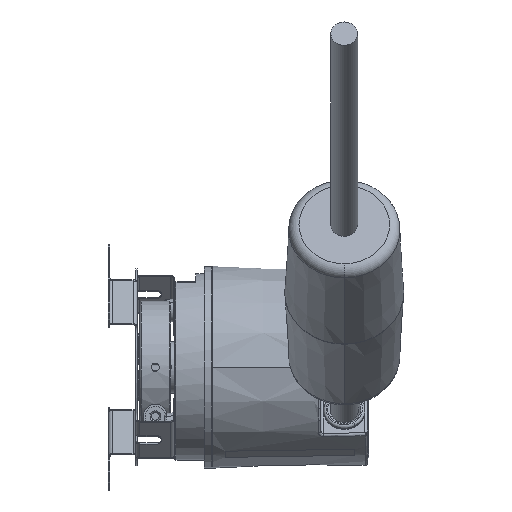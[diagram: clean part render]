
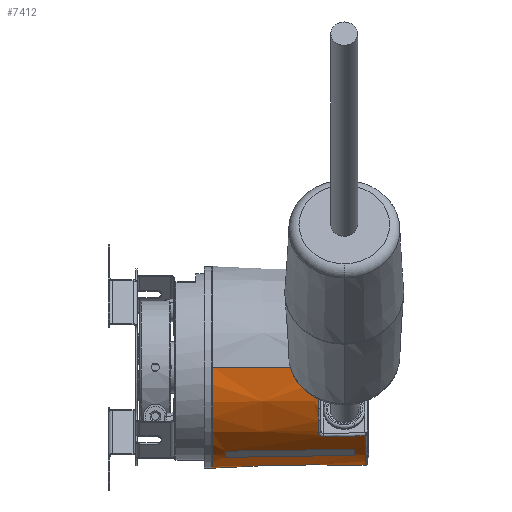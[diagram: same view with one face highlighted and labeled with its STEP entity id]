
A CAD part, front view. The second image highlights one B-rep face of the part: STEP entity #7412.
In plain terms, the highlighted conical face has half-angle 1 degrees and reference radius 18.976 mm.
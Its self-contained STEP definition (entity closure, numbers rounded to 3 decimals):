
#18 = DIRECTION ( 'NONE',  ( 0., -1., 0. ) ) ;
#19 = DIRECTION ( 'NONE',  ( -1., 0., 0. ) ) ;
#20 = CARTESIAN_POINT ( 'NONE',  ( 42.2, 0., 0. ) ) ;
#21 = AXIS2_PLACEMENT_3D ( 'NONE', #20, #19, #18 ) ;
#22 = CONICAL_SURFACE ( 'NONE', #21, 18.976, 0.017 ) ;
#52 = CARTESIAN_POINT ( 'NONE',  ( 14.7, -10.74, -16.224 ) ) ;
#53 = DIRECTION ( 'NONE',  ( 0., 1., 0. ) ) ;
#54 = DIRECTION ( 'NONE',  ( 1., 0., 0. ) ) ;
#55 = CARTESIAN_POINT ( 'NONE',  ( 12.2, 0., 0. ) ) ;
#56 = CARTESIAN_POINT ( 'NONE',  ( 33.709, -13.658, -13.387 ) ) ;
#57 = CARTESIAN_POINT ( 'NONE',  ( 33.572, -13.659, -13.389 ) ) ;
#58 = CARTESIAN_POINT ( 'NONE',  ( 33.437, -13.681, -13.37 ) ) ;
#59 = CARTESIAN_POINT ( 'NONE',  ( 33.19, -13.762, -13.293 ) ) ;
#60 = CARTESIAN_POINT ( 'NONE',  ( 33.079, -13.821, -13.235 ) ) ;
#61 = CARTESIAN_POINT ( 'NONE',  ( 32.898, -13.961, -13.091 ) ) ;
#62 = CARTESIAN_POINT ( 'NONE',  ( 32.827, -14.044, -13.005 ) ) ;
#63 = CARTESIAN_POINT ( 'NONE',  ( 32.733, -14.216, -12.819 ) ) ;
#64 = CARTESIAN_POINT ( 'NONE',  ( 32.709, -14.307, -12.718 ) ) ;
#65 = CARTESIAN_POINT ( 'NONE',  ( 32.709, -14.397, -12.615 ) ) ;
#66 = AXIS2_PLACEMENT_3D ( 'NONE', #55, #54, #53 ) ;
#67 = CIRCLE ( 'NONE', #66, 19.5 ) ;
#68 = B_SPLINE_CURVE_WITH_KNOTS ( 'NONE', 3,
 ( #65, #64, #63, #62, #61, #60, #59, #58, #57, #56 ),
 .UNSPECIFIED., .F., .F.,
 ( 4, 2, 2, 2, 4 ),
 ( 0., 0., 0.001, 0.001, 0.002 ),
 .UNSPECIFIED. ) ;
#70 = DIRECTION ( 'NONE',  ( 0., -1., 0. ) ) ;
#71 = DIRECTION ( 'NONE',  ( 1., 0., 0. ) ) ;
#72 = CARTESIAN_POINT ( 'NONE',  ( 39.7, 0., 0. ) ) ;
#73 = AXIS2_PLACEMENT_3D ( 'NONE', #72, #71, #70 ) ;
#74 = CIRCLE ( 'NONE', #73, 19.02 ) ;
#124 = CARTESIAN_POINT ( 'NONE',  ( 14.7, -8.68, -17.413 ) ) ;
#129 = DIRECTION ( 'NONE',  ( 0., 1., 0. ) ) ;
#130 = DIRECTION ( 'NONE',  ( -1., 0., 0. ) ) ;
#131 = CARTESIAN_POINT ( 'NONE',  ( 32.709, 0., 0. ) ) ;
#132 = AXIS2_PLACEMENT_3D ( 'NONE', #131, #130, #129 ) ;
#133 = CIRCLE ( 'NONE', #132, 19.142 ) ;
#150 = FACE_BOUND ( 'NONE', #7328, .T. ) ;
#151 = FACE_OUTER_BOUND ( 'NONE', #7413, .T. ) ;
#156 = CARTESIAN_POINT ( 'NONE',  ( 39.7, -8.474, -17.028 ) ) ;
#157 = CARTESIAN_POINT ( 'NONE',  ( 31.367, -8.543, -17.156 ) ) ;
#158 = CARTESIAN_POINT ( 'NONE',  ( 23.033, -8.611, -17.284 ) ) ;
#159 = CARTESIAN_POINT ( 'NONE',  ( 14.7, -8.68, -17.413 ) ) ;
#161 = B_SPLINE_CURVE_WITH_KNOTS ( 'NONE', 3,
 ( #159, #158, #157, #156 ),
 .UNSPECIFIED., .F., .F.,
 ( 4, 4 ),
 ( 0., 0.025 ),
 .UNSPECIFIED. ) ;
#170 = CARTESIAN_POINT ( 'NONE',  ( 39.7, -8.474, -17.028 ) ) ;
#218 = CARTESIAN_POINT ( 'NONE',  ( 14.7, -10.74, -16.224 ) ) ;
#219 = CARTESIAN_POINT ( 'NONE',  ( 23.033, -10.663, -16.1 ) ) ;
#220 = CARTESIAN_POINT ( 'NONE',  ( 31.367, -10.586, -15.976 ) ) ;
#221 = CARTESIAN_POINT ( 'NONE',  ( 39.7, -10.51, -15.853 ) ) ;
#222 = CARTESIAN_POINT ( 'NONE',  ( 39.7, -10.51, -15.853 ) ) ;
#223 = B_SPLINE_CURVE_WITH_KNOTS ( 'NONE', 3,
 ( #221, #220, #219, #218 ),
 .UNSPECIFIED., .F., .F.,
 ( 4, 4 ),
 ( 0., 0.025 ),
 .UNSPECIFIED. ) ;
#333 = DIRECTION ( 'NONE',  ( 0., -1., 0. ) ) ;
#334 = DIRECTION ( 'NONE',  ( 1., 0., 0. ) ) ;
#335 = CARTESIAN_POINT ( 'NONE',  ( 14.7, 0., 0. ) ) ;
#336 = AXIS2_PLACEMENT_3D ( 'NONE', #335, #334, #333 ) ;
#337 = CIRCLE ( 'NONE', #336, 19.456 ) ;
#369 = CARTESIAN_POINT ( 'NONE',  ( 32.709, -14.397, -12.615 ) ) ;
#6700 = EDGE_CURVE ( 'NONE', #6974, #6929, #21098, .T. ) ;
#6705 = VERTEX_POINT ( 'NONE', #21064 ) ;
#6707 = EDGE_CURVE ( 'NONE', #6708, #6705, #21078, .T. ) ;
#6708 = VERTEX_POINT ( 'NONE', #21075 ) ;
#6929 = VERTEX_POINT ( 'NONE', #21355 ) ;
#6974 = VERTEX_POINT ( 'NONE', #21492 ) ;
#6975 = VERTEX_POINT ( 'NONE', #21491 ) ;
#6977 = EDGE_CURVE ( 'NONE', #6974, #6975, #21490, .T. ) ;
#7027 = VERTEX_POINT ( 'NONE', #21771 ) ;
#7029 = EDGE_CURVE ( 'NONE', #6929, #7027, #21769, .T. ) ;
#7319 = VERTEX_POINT ( 'NONE', #170 ) ;
#7323 = ORIENTED_EDGE ( 'NONE', *, *, #6707, .T. ) ;
#7325 = ORIENTED_EDGE ( 'NONE', *, *, #7348, .T. ) ;
#7328 = EDGE_LOOP ( 'NONE', ( #7330, #7332, #7336, #7474 ) ) ;
#7330 = ORIENTED_EDGE ( 'NONE', *, *, #7352, .F. ) ;
#7332 = ORIENTED_EDGE ( 'NONE', *, *, #7334, .T. ) ;
#7334 = EDGE_CURVE ( 'NONE', #7353, #7319, #74, .T. ) ;
#7336 = ORIENTED_EDGE ( 'NONE', *, *, #7409, .F. ) ;
#7346 = EDGE_CURVE ( 'NONE', #7456, #7027, #68, .T. ) ;
#7348 = EDGE_CURVE ( 'NONE', #6705, #6975, #67, .T. ) ;
#7352 = EDGE_CURVE ( 'NONE', #7353, #7354, #223, .T. ) ;
#7353 = VERTEX_POINT ( 'NONE', #222 ) ;
#7354 = VERTEX_POINT ( 'NONE', #52 ) ;
#7357 = EDGE_CURVE ( 'NONE', #7456, #6708, #133, .T. ) ;
#7388 = ORIENTED_EDGE ( 'NONE', *, *, #7346, .F. ) ;
#7389 = ORIENTED_EDGE ( 'NONE', *, *, #7357, .T. ) ;
#7391 = VERTEX_POINT ( 'NONE', #124 ) ;
#7409 = EDGE_CURVE ( 'NONE', #7391, #7319, #161, .T. ) ;
#7412 = ADVANCED_FACE ( 'NONE', ( #151, #150 ), #22, .T. ) ;
#7413 = EDGE_LOOP ( 'NONE', ( #7414, #7415, #7416, #7388, #7389, #7323, #7325 ) ) ;
#7414 = ORIENTED_EDGE ( 'NONE', *, *, #6977, .F. ) ;
#7415 = ORIENTED_EDGE ( 'NONE', *, *, #6700, .T. ) ;
#7416 = ORIENTED_EDGE ( 'NONE', *, *, #7029, .T. ) ;
#7456 = VERTEX_POINT ( 'NONE', #369 ) ;
#7474 = ORIENTED_EDGE ( 'NONE', *, *, #7475, .F. ) ;
#7475 = EDGE_CURVE ( 'NONE', #7354, #7391, #337, .T. ) ;
#21064 = CARTESIAN_POINT ( 'NONE',  ( 12.2, -19.5, 0. ) ) ;
#21072 = DIRECTION ( 'NONE',  ( -1., -0.017, 0. ) ) ;
#21073 = VECTOR ( 'NONE', #21072, 1000. ) ;
#21074 = CARTESIAN_POINT ( 'NONE',  ( 42.2, -18.976, 0. ) ) ;
#21075 = CARTESIAN_POINT ( 'NONE',  ( 32.709, -19.142, 0. ) ) ;
#21078 = LINE ( 'NONE', #21074, #21073 ) ;
#21091 = DIRECTION ( 'NONE',  ( -1., 0., 0. ) ) ;
#21092 = CARTESIAN_POINT ( 'NONE',  ( 41.709, 0., 0. ) ) ;
#21093 = AXIS2_PLACEMENT_3D ( 'NONE', #21092, #21091, #21097 ) ;
#21097 = DIRECTION ( 'NONE',  ( 0., 1., 0. ) ) ;
#21098 = CIRCLE ( 'NONE', #21093, 18.985 ) ;
#21355 = CARTESIAN_POINT ( 'NONE',  ( 41.709, -13.586, -13.261 ) ) ;
#21451 = DIRECTION ( 'NONE',  ( -1., 0.017, 0. ) ) ;
#21452 = VECTOR ( 'NONE', #21451, 1000. ) ;
#21453 = CARTESIAN_POINT ( 'NONE',  ( 42.2, 18.976, 0. ) ) ;
#21490 = LINE ( 'NONE', #21453, #21452 ) ;
#21491 = CARTESIAN_POINT ( 'NONE',  ( 12.2, 19.5, 0. ) ) ;
#21492 = CARTESIAN_POINT ( 'NONE',  ( 41.709, 18.985, 0. ) ) ;
#21756 = CARTESIAN_POINT ( 'NONE',  ( 33.709, -13.658, -13.387 ) ) ;
#21757 = CARTESIAN_POINT ( 'NONE',  ( 34.709, -13.649, -13.371 ) ) ;
#21758 = CARTESIAN_POINT ( 'NONE',  ( 35.709, -13.64, -13.356 ) ) ;
#21759 = CARTESIAN_POINT ( 'NONE',  ( 36.71, -13.631, -13.34 ) ) ;
#21760 = CARTESIAN_POINT ( 'NONE',  ( 38.043, -13.619, -13.319 ) ) ;
#21761 = CARTESIAN_POINT ( 'NONE',  ( 39.376, -13.607, -13.298 ) ) ;
#21762 = CARTESIAN_POINT ( 'NONE',  ( 40.709, -13.595, -13.277 ) ) ;
#21763 = CARTESIAN_POINT ( 'NONE',  ( 41.042, -13.592, -13.271 ) ) ;
#21764 = CARTESIAN_POINT ( 'NONE',  ( 41.375, -13.589, -13.266 ) ) ;
#21765 = CARTESIAN_POINT ( 'NONE',  ( 41.709, -13.586, -13.261 ) ) ;
#21769 = B_SPLINE_CURVE_WITH_KNOTS ( 'NONE', 3,
 ( #21765, #21764, #21763, #21762, #21761, #21760, #21759, #21758, #21757, #21756 ),
 .UNSPECIFIED., .F., .F.,
 ( 4, 3, 3, 4 ),
 ( 0., 0.001, 0.005, 0.008 ),
 .UNSPECIFIED. ) ;
#21771 = CARTESIAN_POINT ( 'NONE',  ( 33.709, -13.658, -13.387 ) ) ;
